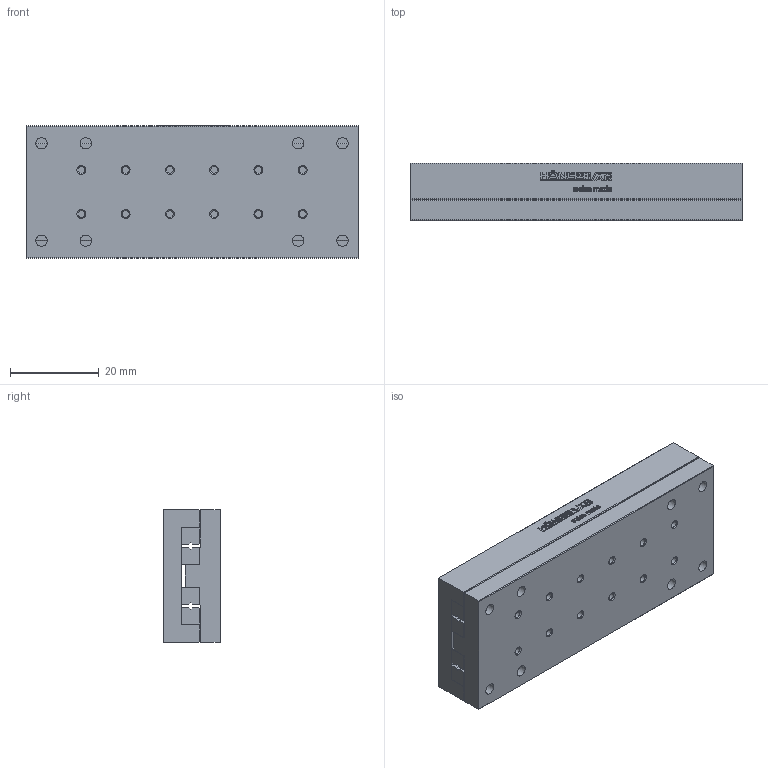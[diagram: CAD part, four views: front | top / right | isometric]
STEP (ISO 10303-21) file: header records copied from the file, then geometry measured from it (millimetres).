
FILE_DESCRIPTION(/* description */ ('STEP AP214'),/* implementation_level */ '2;1');
FILE_NAME(/* name */ 'NKL 1-75(0)',/* time_stamp */ '2025-04-23T07:56:33+02:00',/* author */ ('License CC BY-ND 4.0'),/* organization */ ('CADENAS'),/* preprocessor_version */ 'ST-DEVELOPER v19.3',/* originating_system */ 'PARTsolutions',/* authorisation */ ' ');
FILE_SCHEMA (('AUTOMOTIVE_DESIGN {1 0 10303 214 3 1 1}'));
Length unit declared in the file: millimetre
Products named in the file (3): NKL 1-75(0); NKL 1-75_1; NKL 1-75_2
Assembly tree (2 placements, depth 2):
  NKL 1-75(0)
    NKL 1-75_1
    NKL 1-75_2
Bounding box: 75 x 13 x 30 mm (x, y, z)
Volume: 27646.9 mm3; surface area: 16182.3 mm2
Topology: 2 solids, 2 shells, 681 faces, 1814 edges, 1188 vertices
Faces by surface type: cylinder 332, plane 301, cone 48
Full cylindrical faces by diameter (mm): 1.567 x24, 2.55 x8, 4.3 x8
Entity records: 21063 total; most frequent: DIRECTION 3806, CARTESIAN_POINT 3598, ORIENTED_EDGE 3452, EDGE_CURVE 1726, AXIS2_PLACEMENT_3D 1396, VERTEX_POINT 1188, LINE 1014, VECTOR 1014
